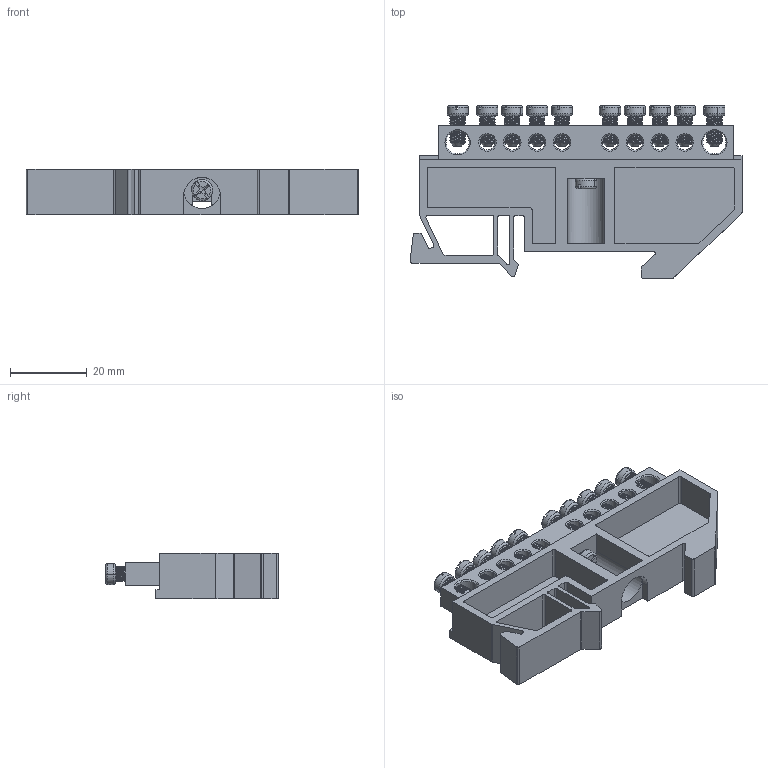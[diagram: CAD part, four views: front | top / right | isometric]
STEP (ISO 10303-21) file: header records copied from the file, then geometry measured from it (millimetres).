
FILE_DESCRIPTION (( 'STEP AP214' ), '1' );
FILE_NAME ('Øèíà íóëåâàÿ ñ DIN èçîëÿòîðîì 6õ9 10.STEP', '2020-02-06T11:31:30', ( '' ), ( '' ), 'SwSTEP 2.0', 'SolidWorks 2018', '' );
FILE_SCHEMA (( 'AUTOMOTIVE_DESIGN' ));
Length unit declared in the file: millimetre
Products named in the file (5): Øèíà íóëåâàÿ ñ êðåïåæíûì îòâåðñòèåì ïî öåíòðó 6õ9 10-1_1; Øèíà 6õ9 10 1; Âèíò ì4; DIN èçîëÿòîð; Øèíà íóëåâàÿ ñ DIN èçîëÿòîðîì 6õ9 10
Assembly tree (14 placements, depth 3):
  Øèíà íóëåâàÿ ñ DIN èçîëÿòîðîì 6õ9 10
    DIN èçîëÿòîð
    Âèíò ì4
    Øèíà íóëåâàÿ ñ êðåïåæíûì îòâåðñòèåì ïî öåíòðó 6õ9 10-1_1
      Øèíà 6õ9 10 1
      Âèíò ì4  x10
Bounding box: 86.63 x 45.1 x 12 mm (x, y, z)
Volume: 16093.3 mm3; surface area: 16005.5 mm2
Topology: 13 solids, 13 shells, 1000 faces, 2775 edges, 1782 vertices
Faces by surface type: plane 373, cylinder 356, cone 139, torus 78, bspline 44, sphere 10
Entity records: 12239 total; most frequent: CARTESIAN_POINT 4271, ORIENTED_EDGE 1588, DIRECTION 1586, EDGE_CURVE 794, AXIS2_PLACEMENT_3D 584, VERTEX_POINT 502, VECTOR 418, LINE 418
